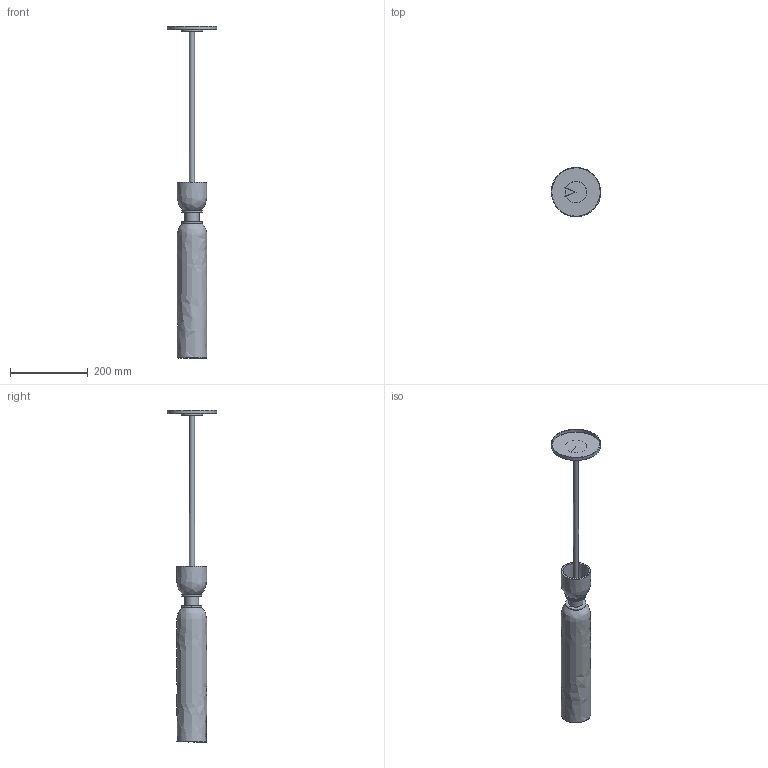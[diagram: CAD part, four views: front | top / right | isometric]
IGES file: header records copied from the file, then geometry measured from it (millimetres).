
Global section: file name: /Users/danielszollosi/Documents/SkLO/Sklo.com/3D models/WEB 3D Models/SkLO_AvroKO_UnionPendant_Small_3D_LT631.igs; native system: Rhinoceros ( Dec  3 2024 ); preprocessor: Trout Lake IGES 012 Dec  3 2024; date: 250805.083804; units: millimetre
Bounding box: 126.98 x 126.86 x 851.91 mm (x, y, z)
Surface area: 287871.4 mm2 (no closed solid volume)
Topology: 0 solids, 0 shells, 101 faces, 996 edges, 931 vertices
Faces by surface type: bspline 101
